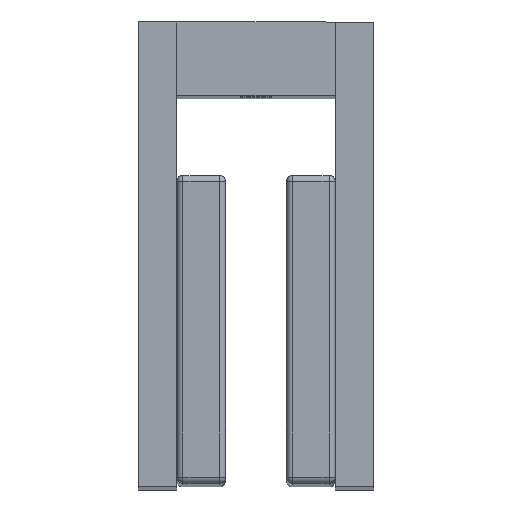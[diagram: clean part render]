
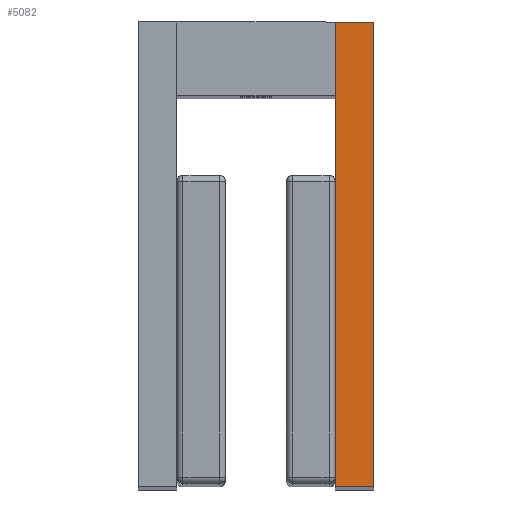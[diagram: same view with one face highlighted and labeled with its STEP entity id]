
A CAD part, top view. The second image highlights one B-rep face of the part: STEP entity #5082.
In plain terms, the highlighted planar face has unit normal (0, 0, 1).
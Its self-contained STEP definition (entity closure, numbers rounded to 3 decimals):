
#718 = VECTOR ( 'NONE', #12959, 1000. ) ;
#1180 = ORIENTED_EDGE ( 'NONE', *, *, #21046, .F. ) ;
#1186 = DIRECTION ( 'NONE',  ( 0., -1., 0. ) ) ;
#1403 = LINE ( 'NONE', #10641, #22422 ) ;
#2192 = LINE ( 'NONE', #25125, #5450 ) ;
#4119 = PLANE ( 'NONE',  #11166 ) ;
#5082 = ADVANCED_FACE ( 'Defeatured_0_2', ( #18240 ), #4119, .F. ) ;
#5450 = VECTOR ( 'NONE', #8557, 1000. ) ;
#5606 = DIRECTION ( 'NONE',  ( 0., -1., 0. ) ) ;
#8375 = VERTEX_POINT ( 'NONE', #24539 ) ;
#8557 = DIRECTION ( 'NONE',  ( -1., 0., 0. ) ) ;
#9090 = CARTESIAN_POINT ( 'NONE',  ( 19.35, -70.2, 0. ) ) ;
#9532 = CARTESIAN_POINT ( 'NONE',  ( 13., -6., 0. ) ) ;
#10556 = LINE ( 'NONE', #29269, #718 ) ;
#10641 = CARTESIAN_POINT ( 'NONE',  ( 13., -70.2, 0. ) ) ;
#10842 = VERTEX_POINT ( 'NONE', #19823 ) ;
#10895 = EDGE_CURVE ( 'Defeatured_0_5+Defeatured_0_2+Defeatured_0_3+Defeatured_0_1', #10842, #14613, #26671, .T. ) ;
#11166 = AXIS2_PLACEMENT_3D ( 'NONE', #9090, #18529, #27809 ) ;
#11443 = CARTESIAN_POINT ( 'NONE',  ( 13., -70.2, 0. ) ) ;
#11929 = ORIENTED_EDGE ( 'NONE', *, *, #14046, .T. ) ;
#11946 = EDGE_CURVE ( 'Defeatured_0_2+Defeatured_0_3+Defeatured_0_5+Defeatured_0_37', #10842, #8375, #21874, .T. ) ;
#12959 = DIRECTION ( 'NONE',  ( 0., -1., 0. ) ) ;
#13388 = VERTEX_POINT ( 'NONE', #11443 ) ;
#14046 = EDGE_CURVE ( 'Defeatured_0_2+Defeatured_0_0+Defeatured_0_37+Defeatured_0_1', #23844, #13388, #1403, .T. ) ;
#14613 = VERTEX_POINT ( 'NONE', #17099 ) ;
#14762 = EDGE_LOOP ( 'NONE', ( #29357, #11929, #1180, #25720, #19775 ) ) ;
#17099 = CARTESIAN_POINT ( 'NONE',  ( 19.35, -70.2, 0. ) ) ;
#18240 = FACE_OUTER_BOUND ( 'NONE', #14762, .T. ) ;
#18529 = DIRECTION ( 'NONE',  ( 0., 0., -1. ) ) ;
#19775 = ORIENTED_EDGE ( 'NONE', *, *, #11946, .T. ) ;
#19823 = CARTESIAN_POINT ( 'NONE',  ( 19.35, 6., 0. ) ) ;
#21046 = EDGE_CURVE ( 'Defeatured_0_1+Defeatured_0_2+Defeatured_0_5+Defeatured_0_0', #14613, #13388, #2192, .T. ) ;
#21758 = EDGE_CURVE ( 'Defeatured_0_2+Defeatured_0_37+Defeatured_0_3+Defeatured_0_0', #8375, #23844, #10556, .T. ) ;
#21874 = LINE ( 'NONE', #28868, #29876 ) ;
#21961 = CARTESIAN_POINT ( 'NONE',  ( 19.35, -70.2, 0. ) ) ;
#21990 = VECTOR ( 'NONE', #1186, 1000. ) ;
#22422 = VECTOR ( 'NONE', #5606, 1000. ) ;
#23844 = VERTEX_POINT ( 'NONE', #9532 ) ;
#24539 = CARTESIAN_POINT ( 'NONE',  ( 13., 6., 0. ) ) ;
#25125 = CARTESIAN_POINT ( 'NONE',  ( 19.35, -70.2, 0. ) ) ;
#25720 = ORIENTED_EDGE ( 'NONE', *, *, #10895, .F. ) ;
#26671 = LINE ( 'NONE', #21961, #21990 ) ;
#27809 = DIRECTION ( 'NONE',  ( 1., 0., 0. ) ) ;
#28868 = CARTESIAN_POINT ( 'NONE',  ( 19.35, 6., 0. ) ) ;
#29024 = DIRECTION ( 'NONE',  ( -1., 0., 0. ) ) ;
#29269 = CARTESIAN_POINT ( 'NONE',  ( 13., -70.2, 0. ) ) ;
#29357 = ORIENTED_EDGE ( 'NONE', *, *, #21758, .T. ) ;
#29876 = VECTOR ( 'NONE', #29024, 1000. ) ;
